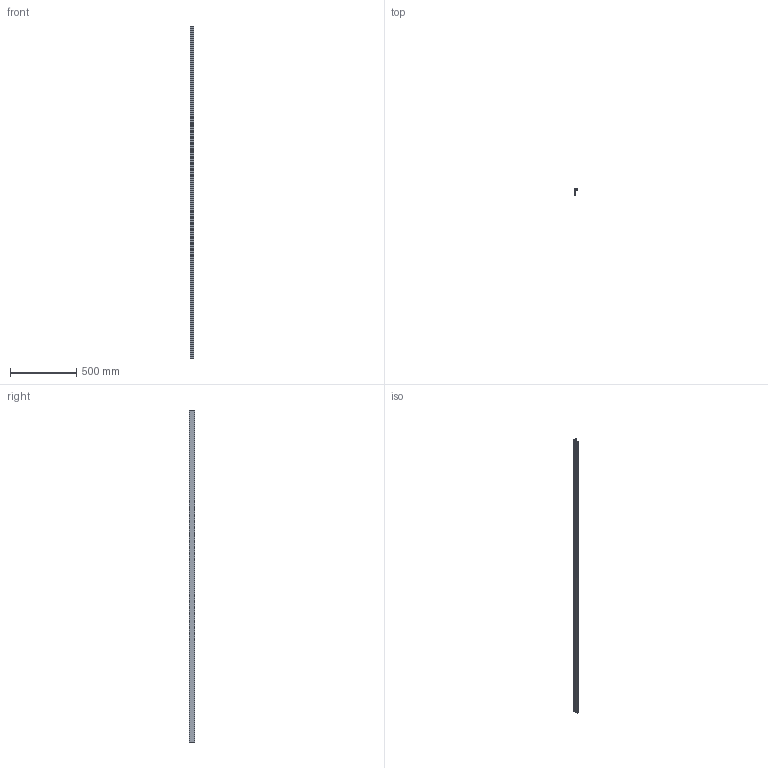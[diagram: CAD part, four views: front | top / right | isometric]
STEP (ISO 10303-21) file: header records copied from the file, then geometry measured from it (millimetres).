
FILE_DESCRIPTION(('STEP AP242'),'1');
FILE_NAME('OPO_51.047.37_volu_schn_3d.stp','2026-03-17T13:40:31',(' '),(' '),'Spatial InterOp 3D',' ',' ');
FILE_SCHEMA(('AP242_MANAGED_MODEL_BASED_3D_ENGINEERING_MIM_LF {1 0 10303 442 1 1 4}'));
Length unit declared in the file: millimetre
Products named in the file (1): 1
Bounding box: 24 x 43 x 2500 mm (x, y, z)
Volume: 463949.1 mm3; surface area: 543744.3 mm2
Topology: 1 solids, 1 shells, 81 faces, 403 edges, 508 vertices
Faces by surface type: plane 61, cylinder 20
Entity records: 5416 total; most frequent: CARTESIAN_POINT 634, DIRECTION 629, ORIENTED_EDGE 446, LINE 343, VECTOR 343, STYLED_ITEM 261, PRESENTATION_STYLE_ASSIGNMENT 261, COLOUR_RGB 261
